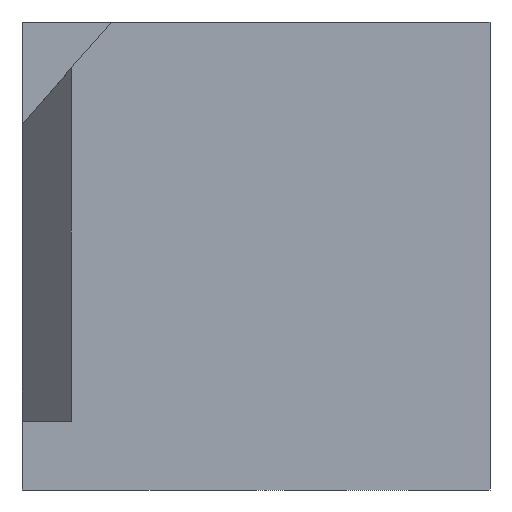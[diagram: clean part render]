
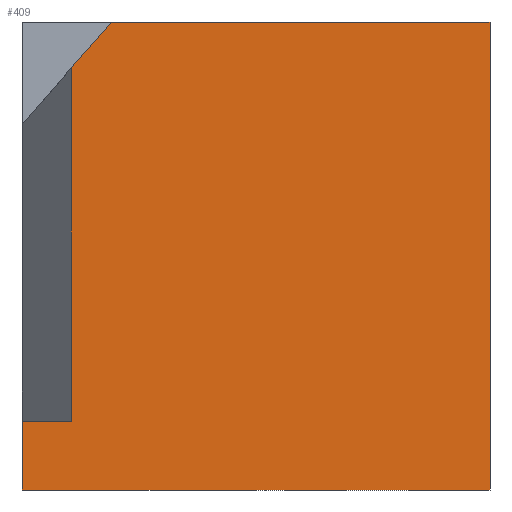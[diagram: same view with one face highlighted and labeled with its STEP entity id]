
A CAD part, left-side view. The second image highlights one B-rep face of the part: STEP entity #409.
In plain terms, the highlighted planar face has unit normal (-1, 0, 0).
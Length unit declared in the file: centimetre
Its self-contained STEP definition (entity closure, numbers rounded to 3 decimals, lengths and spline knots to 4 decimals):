
#24 = EDGE_CURVE ( 'NONE', #1276, #492, #859, .T. ) ;
#25 = CARTESIAN_POINT ( 'NONE',  ( 0., 1000., 147.3011 ) ) ;
#66 = FACE_OUTER_BOUND ( 'NONE', #855, .T. ) ;
#71 = LINE ( 'NONE', #384, #202 ) ;
#89 = VECTOR ( 'NONE', #203, 100. ) ;
#90 = VERTEX_POINT ( 'NONE', #848 ) ;
#134 = CARTESIAN_POINT ( 'NONE',  ( 0., 1000., 1000. ) ) ;
#154 = EDGE_CURVE ( 'NONE', #345, #492, #359, .T. ) ;
#160 = DIRECTION ( 'NONE',  ( 1., 0., 0. ) ) ;
#170 = ORIENTED_EDGE ( 'NONE', *, *, #233, .F. ) ;
#172 = DIRECTION ( 'NONE',  ( 0., -0.657, 0.753 ) ) ;
#190 = DIRECTION ( 'NONE',  ( 0., 0., -1. ) ) ;
#202 = VECTOR ( 'NONE', #837, 100. ) ;
#203 = DIRECTION ( 'NONE',  ( 0., 0., 1. ) ) ;
#214 = DIRECTION ( 'NONE',  ( 0., -1., 0. ) ) ;
#222 = DIRECTION ( 'NONE',  ( 0., -1., 0. ) ) ;
#233 = EDGE_CURVE ( 'NONE', #1013, #786, #1117, .T. ) ;
#274 = LINE ( 'NONE', #919, #1174 ) ;
#294 = CARTESIAN_POINT ( 'NONE',  ( 0., 0., 0. ) ) ;
#323 = CARTESIAN_POINT ( 'NONE',  ( 0., 809.0055, 1000. ) ) ;
#324 = ORIENTED_EDGE ( 'NONE', *, *, #154, .F. ) ;
#345 = VERTEX_POINT ( 'NONE', #375 ) ;
#358 = CARTESIAN_POINT ( 'NONE',  ( 0., 894.6717, 901.8251 ) ) ;
#359 = LINE ( 'NONE', #369, #1282 ) ;
#369 = CARTESIAN_POINT ( 'NONE',  ( 0., 0., 1000. ) ) ;
#375 = CARTESIAN_POINT ( 'NONE',  ( 0., 0., 1000. ) ) ;
#384 = CARTESIAN_POINT ( 'NONE',  ( 0., 1000., 1000. ) ) ;
#409 = ADVANCED_FACE ( 'NONE', ( #66 ), #863, .F. ) ;
#446 = VECTOR ( 'NONE', #172, 100. ) ;
#452 = VECTOR ( 'NONE', #222, 100. ) ;
#465 = DIRECTION ( 'NONE',  ( 0., 0., -1. ) ) ;
#492 = VERTEX_POINT ( 'NONE', #294 ) ;
#496 = VECTOR ( 'NONE', #214, 100. ) ;
#551 = ORIENTED_EDGE ( 'NONE', *, *, #558, .F. ) ;
#558 = EDGE_CURVE ( 'NONE', #786, #345, #71, .T. ) ;
#674 = AXIS2_PLACEMENT_3D ( 'NONE', #134, #160, #465 ) ;
#731 = ORIENTED_EDGE ( 'NONE', *, *, #795, .F. ) ;
#773 = DIRECTION ( 'NONE',  ( 0., 0., -1. ) ) ;
#786 = VERTEX_POINT ( 'NONE', #323 ) ;
#795 = EDGE_CURVE ( 'NONE', #90, #829, #849, .T. ) ;
#829 = VERTEX_POINT ( 'NONE', #847 ) ;
#837 = DIRECTION ( 'NONE',  ( 0., -1., 0. ) ) ;
#847 = CARTESIAN_POINT ( 'NONE',  ( 0., 894.6717, 147.3011 ) ) ;
#848 = CARTESIAN_POINT ( 'NONE',  ( 0., 1000., 147.3011 ) ) ;
#849 = LINE ( 'NONE', #25, #452 ) ;
#855 = EDGE_LOOP ( 'NONE', ( #551, #170, #1103, #731, #1003, #1333, #324 ) ) ;
#859 = LINE ( 'NONE', #1061, #496 ) ;
#863 = PLANE ( 'NONE',  #674 ) ;
#919 = CARTESIAN_POINT ( 'NONE',  ( 0., 1000., 1000. ) ) ;
#939 = CARTESIAN_POINT ( 'NONE',  ( 0., 1000., 0. ) ) ;
#1003 = ORIENTED_EDGE ( 'NONE', *, *, #1122, .T. ) ;
#1013 = VERTEX_POINT ( 'NONE', #358 ) ;
#1061 = CARTESIAN_POINT ( 'NONE',  ( 0., 1000., 0. ) ) ;
#1103 = ORIENTED_EDGE ( 'NONE', *, *, #1311, .F. ) ;
#1117 = LINE ( 'NONE', #1208, #446 ) ;
#1122 = EDGE_CURVE ( 'NONE', #90, #1276, #274, .T. ) ;
#1145 = LINE ( 'NONE', #1250, #89 ) ;
#1174 = VECTOR ( 'NONE', #190, 100. ) ;
#1208 = CARTESIAN_POINT ( 'NONE',  ( 0., 809.0055, 1000. ) ) ;
#1250 = CARTESIAN_POINT ( 'NONE',  ( 0., 894.6717, 147.3011 ) ) ;
#1276 = VERTEX_POINT ( 'NONE', #939 ) ;
#1282 = VECTOR ( 'NONE', #773, 100. ) ;
#1311 = EDGE_CURVE ( 'NONE', #829, #1013, #1145, .T. ) ;
#1333 = ORIENTED_EDGE ( 'NONE', *, *, #24, .T. ) ;
